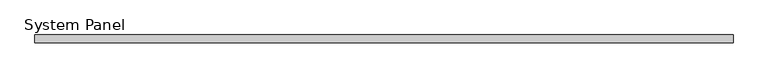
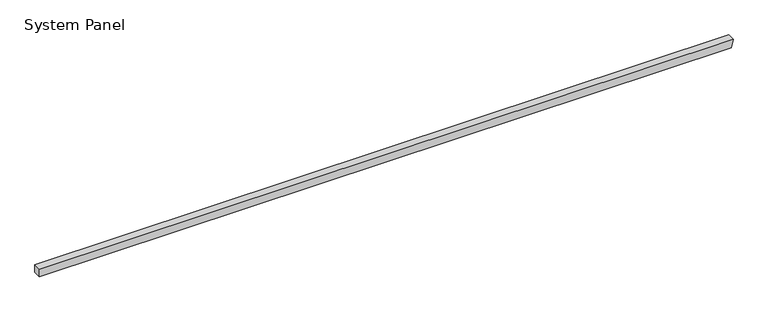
"""IFC4 building model written with IfcOpenShell, lengths in millimetres: plate geometry, System Panel : Equitilt_FlameGuard_75mm_Plain_Surfmist."""

import ifcopenshell
import ifcopenshell.guid

model = None  # the IFC model being written
_history = None  # IfcOwnerHistory: only IFC2X3 demands one
_inside = {}  # id of a spatial element -> (the spatial element, [elements in it])
_under = {}  # id of a project, library or spatial element -> (it, [spatial elements below it])
_declared = {}  # id of a project -> (the project, [libraries it declares])
_typed = {}  # id of a type object -> (the type object, [elements of that type])
_made_of = {}  # id of a material, layer set ... -> (it, [elements and type objects made of it])


def new_model(schema):
    """Start an empty IFC model of exactly this schema.

    Asked for "IFC4X3", IfcOpenShell would pick the latest addendum, in which some entities
    have other attributes; the version numbers below select the first issue.
    IFC2X3 requires an IfcOwnerHistory on every rooted entity: one is made here for all.
    """
    global model, _history
    if schema == "IFC4X3":
        model = ifcopenshell.file(schema_version=(4, 3, 0, 0))
    else:
        model = ifcopenshell.file(schema=schema)
    _inside.clear()
    _under.clear()
    _declared.clear()
    _typed.clear()
    _made_of.clear()
    _history = None
    if model.schema == "IFC2X3":
        org = make("IfcOrganization", Name="unknown")
        user = make(
            "IfcPersonAndOrganization",
            ThePerson=make("IfcPerson", FamilyName="unknown"),
            TheOrganization=org,
        )
        app = make(
            "IfcApplication",
            ApplicationDeveloper=org,
            Version="unknown",
            ApplicationFullName="unknown",
            ApplicationIdentifier="unknown",
        )
        _history = make(
            "IfcOwnerHistory",
            OwningUser=user,
            OwningApplication=app,
            ChangeAction="ADDED",
            CreationDate=0,
        )
    return model


def make(cls, **values):
    """One entity of the class cls with the attributes given. An attribute that is None is left unset."""
    return model.create_entity(
        cls, **{name: value for name, value in values.items() if value is not None}
    )


def rooted(cls, **values):
    """An entity with a GlobalId (a new one), such as an element, a storey or a relation."""
    return make(cls, GlobalId=ifcopenshell.guid.new(), OwnerHistory=_history, **values)


def si_unit(unit_type, name, prefix=None):
    """IfcSIUnit, for example si_unit("LENGTHUNIT", "METRE", prefix="MILLI")."""
    return make("IfcSIUnit", UnitType=unit_type, Prefix=prefix, Name=name)


def assignment(units):
    """IfcUnitAssignment: the units of a project."""
    return None if units is None else make("IfcUnitAssignment", Units=units)


def point(xyz):
    """IfcCartesianPoint."""
    return None if xyz is None else make("IfcCartesianPoint", Coordinates=xyz)


def direction(xyz):
    """IfcDirection."""
    return None if xyz is None else make("IfcDirection", DirectionRatios=xyz)


def frame(location, z_axis=None, x_axis=None):
    """IfcAxis2Placement3D, a coordinate frame: its origin and axes. An axis left out is left unset."""
    return make(
        "IfcAxis2Placement3D",
        Location=point(location),
        Axis=direction(z_axis),
        RefDirection=direction(x_axis),
    )


def origin():
    """The frame at (0, 0, 0) with its axes left unset."""
    return frame((0.0, 0.0, 0.0))


def place(relative_to, where):
    """IfcLocalPlacement: puts the frame where relative to a parent placement (None: the world)."""
    return make(
        "IfcLocalPlacement", PlacementRelTo=relative_to, RelativePlacement=where
    )


def context(
    kind, dimensions, precision=None, world=None, true_north=None, identifier=None
):
    """IfcGeometricRepresentationContext, for example the 3D "Model" context."""
    return make(
        "IfcGeometricRepresentationContext",
        ContextIdentifier=identifier,
        ContextType=kind,
        CoordinateSpaceDimension=dimensions,
        Precision=precision,
        WorldCoordinateSystem=world,
        TrueNorth=true_north,
    )


def project(units=None, contexts=None):
    """IfcProject with its units and contexts."""
    return rooted(
        "IfcProject",
        Name="project",
        RepresentationContexts=contexts,
        UnitsInContext=assignment(units),
    )


def spatial(cls, under=None, at=None, **own):
    """A site, building, storey or space (cls), placed at a placement, below another one or the project."""
    s = rooted(cls, ObjectPlacement=at, **own)
    if under is not None:
        _under.setdefault(under.id(), (under, []))[1].append(s)
    return s


def polyline(points):
    """IfcPolyline through the points."""
    return make("IfcPolyline", Points=[point(p) for p in points])


def outline(outer, holes=None, kind="AREA"):
    """IfcArbitraryClosedProfileDef: a profile drawn as a closed curve; with holes, ...WithVoids."""
    if holes is None:
        return make("IfcArbitraryClosedProfileDef", ProfileType=kind, OuterCurve=outer)
    return make(
        "IfcArbitraryProfileDefWithVoids",
        ProfileType=kind,
        OuterCurve=outer,
        InnerCurves=holes,
    )


def extrude(swept, where, along, depth):
    """IfcExtrudedAreaSolid: the profile swept, set in the frame where, extruded along a direction by depth."""
    return make(
        "IfcExtrudedAreaSolid",
        SweptArea=swept,
        Position=where,
        ExtrudedDirection=direction(along),
        Depth=depth,
    )


def shape(context_of_items, identifier, shape_type, items):
    """IfcShapeRepresentation: the items that make up one representation, for example the "Body"."""
    return make(
        "IfcShapeRepresentation",
        ContextOfItems=context_of_items,
        RepresentationIdentifier=identifier,
        RepresentationType=shape_type,
        Items=items,
    )


def source(mapping_origin, context_of_items, identifier, shape_type, items):
    """IfcRepresentationMap: a shape defined once, which mapped items show again and again."""
    return make(
        "IfcRepresentationMap",
        MappingOrigin=mapping_origin,
        MappedRepresentation=shape(context_of_items, identifier, shape_type, items),
    )


def transform(
    local_origin,
    x_axis=None,
    y_axis=None,
    z_axis=None,
    scale=None,
    scale2=None,
    scale3=None,
    uniform=True,
):
    """IfcCartesianTransformationOperator3D, or its non-uniform kind. x_axis, y_axis, z_axis: its Axis1, 2, 3."""
    if uniform:
        return make(
            "IfcCartesianTransformationOperator3D",
            Axis1=direction(x_axis),
            Axis2=direction(y_axis),
            LocalOrigin=point(local_origin),
            Scale=scale,
            Axis3=direction(z_axis),
        )
    return make(
        "IfcCartesianTransformationOperator3DnonUniform",
        Axis1=direction(x_axis),
        Axis2=direction(y_axis),
        LocalOrigin=point(local_origin),
        Scale=scale,
        Axis3=direction(z_axis),
        Scale2=scale2,
        Scale3=scale3,
    )


def mapped(mapping_source, mapping_target):
    """IfcMappedItem: shows the shape of a source again, moved by a transform."""
    return make(
        "IfcMappedItem", MappingSource=mapping_source, MappingTarget=mapping_target
    )


def made_of(thing, what):
    """Note that an element or type object is made of a material, layer set ...; save() writes the relation."""
    if what is not None:
        _made_of.setdefault(what.id(), (what, []))[1].append(thing)
    return thing


def element(
    cls,
    number,
    at=None,
    inside=None,
    cuts=None,
    type_object=None,
    material=None,
    context=None,
    identifier="Body",
    shape_type=None,
    held_by="IfcProductDefinitionShape",
    body=None,
    shapes=None,
    **own,
):
    """One element of the class cls, such as IfcWall. Its Tag is "e" and its number.

    at: its placement. inside: the storey or other place that contains it. cuts: it is an
    opening in that element (IfcRelVoidsElement). A single representation is given by context,
    identifier, shape_type and body (its items); several are given by shapes. held_by: the class
    of the entity that holds the representations. save() writes the other relations.
    """
    e = rooted(cls, Tag="e%d" % number, ObjectPlacement=at, **own)
    if body is not None:
        shapes = [shape(context, identifier, shape_type, body)]
    if shapes is not None:
        e.Representation = make(held_by, Representations=shapes)
    if inside is not None:
        _inside.setdefault(inside.id(), (inside, []))[1].append(e)
    if cuts is not None:
        rooted(
            "IfcRelVoidsElement", RelatingBuildingElement=cuts, RelatedOpeningElement=e
        )
    if type_object is not None:
        _typed.setdefault(type_object.id(), (type_object, []))[1].append(e)
    return made_of(e, material)


def aggregate(whole, parts):
    """IfcRelAggregates: a whole, such as a stair, and the parts it consists of."""
    return rooted("IfcRelAggregates", RelatingObject=whole, RelatedObjects=parts)


def save(model, path):
    """Write the relations noted so far, then the file.

    IfcRelAggregates (storeys below a building ...), IfcRelContainedInSpatialStructure (elements
    in a storey), IfcRelDefinesByType, IfcRelAssociatesMaterial and IfcRelDeclares: one each for
    every whole, place, type object, material and project.
    """
    for whole, parts in _under.values():
        aggregate(whole, parts)
    for where, things in _inside.values():
        rooted(
            "IfcRelContainedInSpatialStructure",
            RelatedElements=things,
            RelatingStructure=where,
        )
    for kind, things in _typed.values():
        rooted("IfcRelDefinesByType", RelatedObjects=things, RelatingType=kind)
    for what, things in _made_of.values():
        rooted("IfcRelAssociatesMaterial", RelatedObjects=things, RelatingMaterial=what)
    for by, libraries in _declared.values():
        rooted("IfcRelDeclares", RelatingContext=by, RelatedDefinitions=libraries)
    model.write(path)


def system_panel_6e7626b0(model_context):
    return source(origin(), model_context, "Body", "SweptSolid", [
        extrude(outline(polyline([(0.0, -3395.0), (0.0, 3377.6149856), (79.9704237, 3395.0), (79.9704237, -3395.0), (0.0, -3395.0)])), frame((0.0, -75.0, 0.0), z_axis=(0.0, 1.0, 0.0), x_axis=(0.0, 0.0, 1.0)), (0.0, 0.0, 1.0), 75.0),
    ])


if __name__ == "__main__":
    model = new_model("IFC4")
    model_context = context("Model", 3, world=origin())
    ifc_project = project(units=[si_unit("LENGTHUNIT", "METRE", prefix="MILLI")], contexts=[model_context])
    site = spatial("IfcSite", under=ifc_project)
    building = spatial("IfcBuilding", under=site)
    placement = place(None, origin())
    system_panel_shape = system_panel_6e7626b0(model_context)
    element("IfcPlate", 1, ObjectType="System Panel : Equitilt_FlameGuard_75mm_Plain_Surfmist", at=placement, inside=building, context=model_context, shape_type="MappedRepresentation", body=[
        mapped(system_panel_shape, transform((0.0, 0.0, 0.0), x_axis=(1.0, 0.0, 0.0), y_axis=(0.0, 1.0, 0.0), z_axis=(0.0, 0.0, 1.0))),
    ])
    save(model, "model.ifc")
